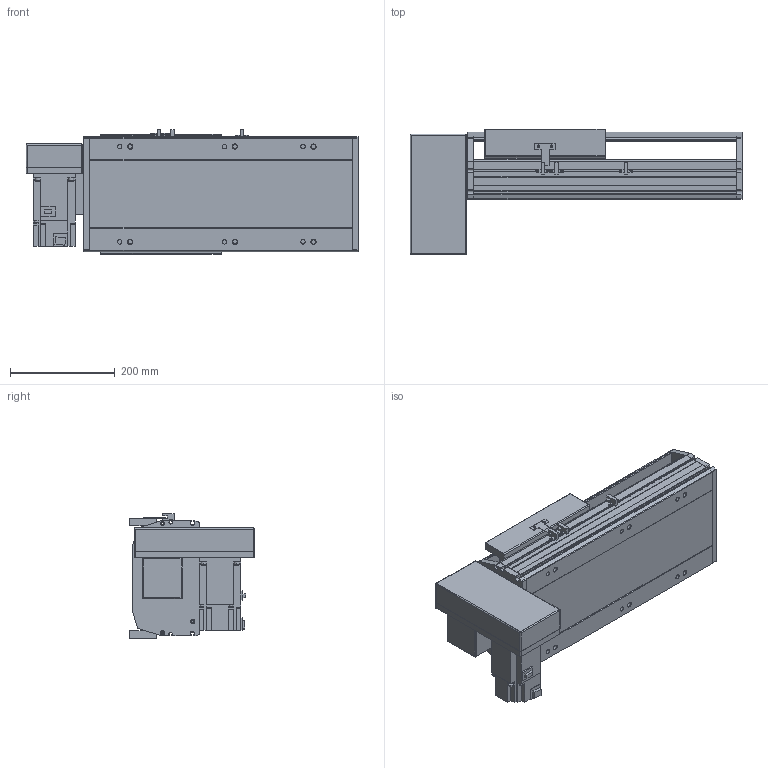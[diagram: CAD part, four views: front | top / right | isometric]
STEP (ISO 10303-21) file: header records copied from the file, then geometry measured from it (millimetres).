
FILE_DESCRIPTION(/* description */ ('STEP AP214'),/* implementation_level */ '2;1');
FILE_NAME(/* name */ 'PBS220-P40-S150-RD-T75-C1-N(0)',/* time_stamp */ '2022-06-13T02:40:29+02:00',/* author */ ('License CC BY-ND 4.0'),/* organization */ ('CADENAS'),/* preprocessor_version */ 'ST-DEVELOPER v18.102',/* originating_system */ 'PARTsolutions',/* authorisation */ ' ');
FILE_SCHEMA (('AUTOMOTIVE_DESIGN {1 0 10303 214 3 1 1}'));
Length unit declared in the file: millimetre
Products named in the file (7): PBS220-P40-S150-RD-T75-C1-N(0); PBS220_sensor; PBS220_plant; PBS220_sliser; T75-p1; PBS220T-RD_motors; PBS220-S150()_body
Assembly tree (8 placements, depth 2):
  PBS220-P40-S150-RD-T75-C1-N(0)
    PBS220_sensor  x3
    PBS220_plant
    PBS220_sliser
    T75-p1
    PBS220T-RD_motors
    PBS220-S150()_body
Bounding box: 634 x 239 x 238.5 mm (x, y, z)
Volume: 10012145.5 mm3; surface area: 1125491.3 mm2
Topology: 8 solids, 8 shells, 854 faces, 2256 edges, 1468 vertices
Faces by surface type: plane 578, cylinder 246, cone 30
Full cylindrical faces by diameter (mm): 2.013 x4, 4.5 x14, 4.917 x4, 6 x7, 6.647 x8, 8 x10, 8.376 x6, 8.5 x6, 10 x6, 14 x6, 38 x2, 40 x1, 70 x1
Entity records: 24069 total; most frequent: DIRECTION 4185, CARTESIAN_POINT 4162, ORIENTED_EDGE 3926, EDGE_CURVE 1963, AXIS2_PLACEMENT_3D 1425, VERTEX_POINT 1336, LINE 1335, VECTOR 1335
